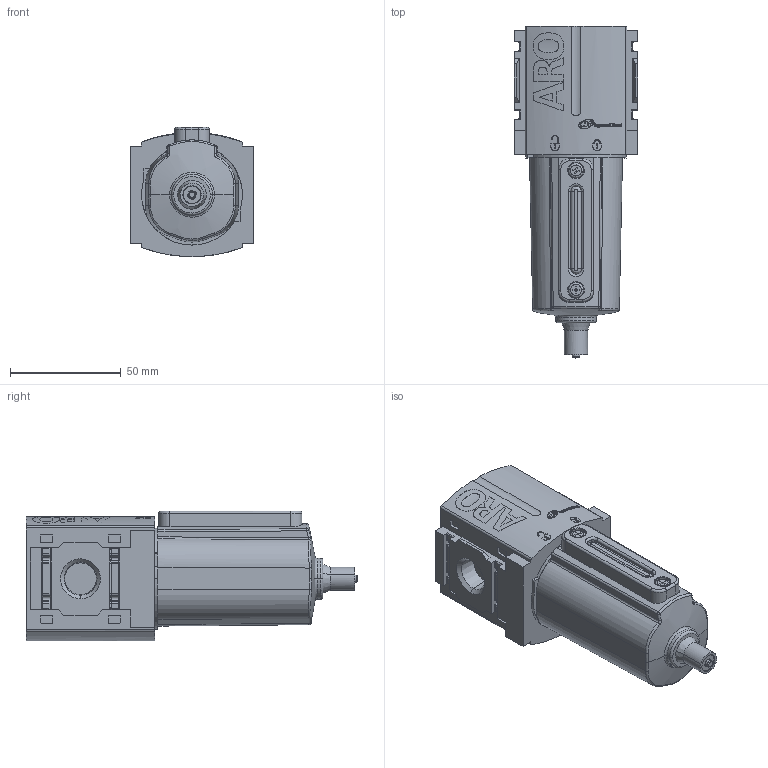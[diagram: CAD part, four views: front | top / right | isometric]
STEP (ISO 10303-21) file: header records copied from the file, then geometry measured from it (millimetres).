
FILE_DESCRIPTION(/* description */ (''),/* implementation_level */ '2;1');
FILE_NAME(/* name */ 'F352X1-X1X_01',/* time_stamp */ '2009-02-03T14:15:39-05:00',/* author */ (''),/* organization */ (''),/* preprocessor_version */ 'ST-DEVELOPER v9',/* originating_system */ 'UGS - NX 4.0',/* authorisation */ '');
FILE_SCHEMA (('AUTOMOTIVE_DESIGN { 1 0 10303 214 1 1 1 1 }'));
Length unit declared in the file: inch
Products named in the file (1): szeeDA8Ai5zm
Bounding box: 56 x 150.01 x 58.5 mm (x, y, z)
Volume: 270051.9 mm3; surface area: 31907.5 mm2
Topology: 1 solids, 1 shells, 1071 faces, 2806 edges, 1817 vertices
Faces by surface type: plane 660, cylinder 249, torus 53, extrusion 51, bspline 31, cone 16, revolution 7, sphere 4
Full cylindrical faces by diameter (mm): 3.3 x1
Entity records: 48397 total; most frequent: CARTESIAN_POINT 16125, ORIENTED_EDGE 5604, DIRECTION 4297, EDGE_CURVE 2802, VECTOR 1820, VERTEX_POINT 1816, LINE 1769, AXIS2_PLACEMENT_3D 1235
